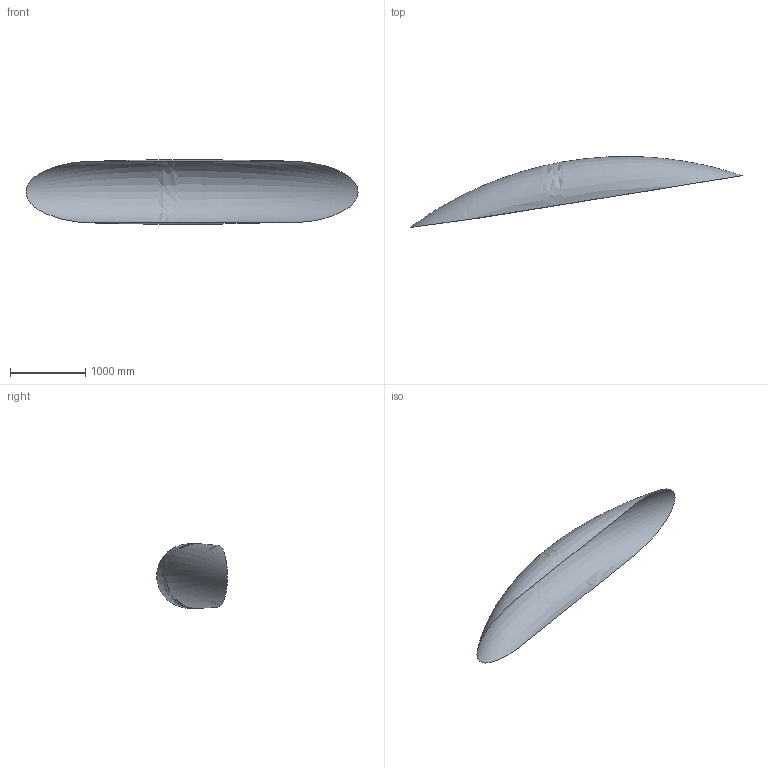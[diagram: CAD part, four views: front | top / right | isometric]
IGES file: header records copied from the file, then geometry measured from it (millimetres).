
Global section: file name: Filename.iges; native system: Open CASCADE 6.6; preprocessor: Open CASCADE IGES processor 6.6; author: admin; date: 20130524.191738; units: millimetre
Bounding box: 4399.51 x 940.74 x 860.53 mm (x, y, z)
Surface area: 5473260.5 mm2 (no closed solid volume)
Topology: 0 solids, 0 shells, 1 faces, 4 edges, 2 vertices
Faces by surface type: bspline 1
